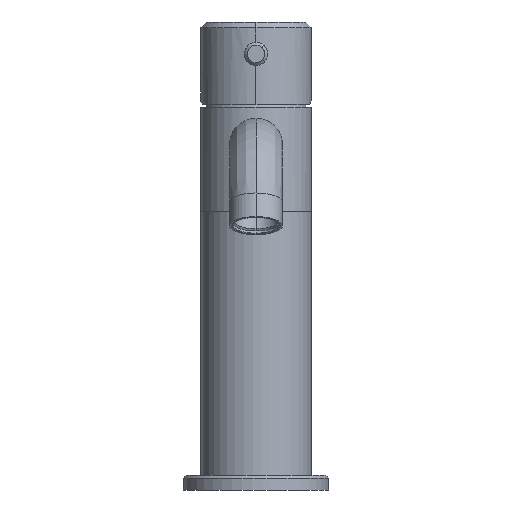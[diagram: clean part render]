
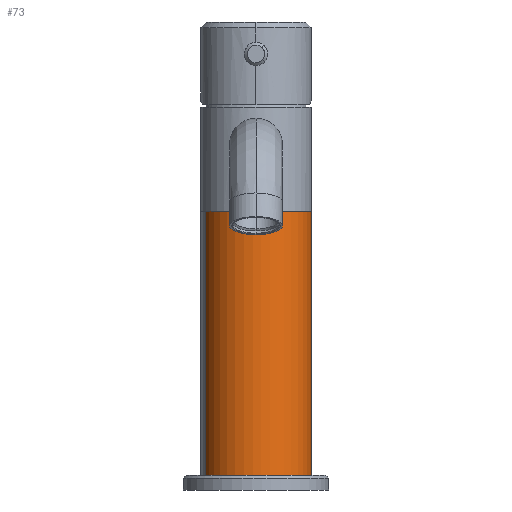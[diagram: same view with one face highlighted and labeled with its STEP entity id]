
A CAD part, front view. The second image highlights one B-rep face of the part: STEP entity #73.
In plain terms, the highlighted cylindrical face has radius 19 mm (diameter 38 mm), a partial arc.
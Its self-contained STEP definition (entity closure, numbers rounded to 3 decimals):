
#73=ADVANCED_FACE('',(#228),#2434,.T.);
#228=FACE_OUTER_BOUND('',#384,.T.);
#384=EDGE_LOOP('',(#560,#561,#562,#563));
#560=ORIENTED_EDGE('',*,*,#1304,.F.);
#561=ORIENTED_EDGE('',*,*,#1308,.T.);
#562=ORIENTED_EDGE('',*,*,#1306,.F.);
#563=ORIENTED_EDGE('',*,*,#1309,.F.);
#1304=EDGE_CURVE('',#2076,#2077,#1689,.T.);
#1306=EDGE_CURVE('',#2078,#2075,#1690,.T.);
#1308=EDGE_CURVE('',#2076,#2075,#1994,.T.);
#1309=EDGE_CURVE('',#2077,#2078,#1995,.T.);
#1689=B_SPLINE_CURVE_WITH_KNOTS('',1,(#2817,#2818),.UNSPECIFIED.,.F.,.F.,
(2,2),(0.,91.),.UNSPECIFIED.);
#1690=B_SPLINE_CURVE_WITH_KNOTS('',1,(#2824,#2825),.UNSPECIFIED.,.F.,.F.,
(2,2),(0.,91.),.UNSPECIFIED.);
#1994=(
BOUNDED_CURVE()
B_SPLINE_CURVE(2,(#2835,#2836,#2837,#2838,#2839),.UNSPECIFIED.,.F.,.F.)
B_SPLINE_CURVE_WITH_KNOTS((3,2,3),(0.,38.,76.),.UNSPECIFIED.)
CURVE()
GEOMETRIC_REPRESENTATION_ITEM()
RATIONAL_B_SPLINE_CURVE((1.,0.707,1.,0.707,1.))
REPRESENTATION_ITEM('')
);
#1995=(
BOUNDED_CURVE()
B_SPLINE_CURVE(2,(#2840,#2841,#2842,#2843,#2844),.UNSPECIFIED.,.F.,.F.)
B_SPLINE_CURVE_WITH_KNOTS((3,2,3),(-76.,-38.,0.),.UNSPECIFIED.)
CURVE()
GEOMETRIC_REPRESENTATION_ITEM()
RATIONAL_B_SPLINE_CURVE((1.,0.707,1.,0.707,1.))
REPRESENTATION_ITEM('')
);
#2075=VERTEX_POINT('',#2807);
#2076=VERTEX_POINT('',#2808);
#2077=VERTEX_POINT('',#2809);
#2078=VERTEX_POINT('',#2810);
#2434=CYLINDRICAL_SURFACE('',#2543,19.);
#2543=AXIS2_PLACEMENT_3D('',#2806,#2674,$);
#2674=DIRECTION('',(0.,0.,1.));
#2806=CARTESIAN_POINT('',(0.001,0.,50.5));
#2807=CARTESIAN_POINT('',(17.552,7.278,5.));
#2808=CARTESIAN_POINT('',(-17.55,-7.278,5.));
#2809=CARTESIAN_POINT('',(-17.55,-7.278,96.));
#2810=CARTESIAN_POINT('',(17.552,7.278,96.));
#2817=CARTESIAN_POINT('',(-17.55,-7.278,5.));
#2818=CARTESIAN_POINT('',(-17.55,-7.278,96.));
#2824=CARTESIAN_POINT('',(17.552,7.278,96.));
#2825=CARTESIAN_POINT('',(17.552,7.278,5.));
#2835=CARTESIAN_POINT('',(-17.55,-7.278,5.));
#2836=CARTESIAN_POINT('',(-10.272,-24.829,5.));
#2837=CARTESIAN_POINT('',(7.279,-17.551,5.));
#2838=CARTESIAN_POINT('',(24.83,-10.273,5.));
#2839=CARTESIAN_POINT('',(17.552,7.278,5.));
#2840=CARTESIAN_POINT('',(-17.55,-7.278,96.));
#2841=CARTESIAN_POINT('',(-10.272,-24.829,96.));
#2842=CARTESIAN_POINT('',(7.279,-17.551,96.));
#2843=CARTESIAN_POINT('',(24.83,-10.273,96.));
#2844=CARTESIAN_POINT('',(17.552,7.278,96.));
